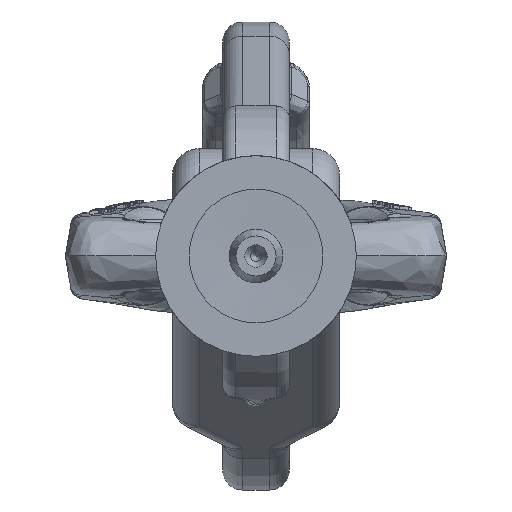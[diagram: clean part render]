
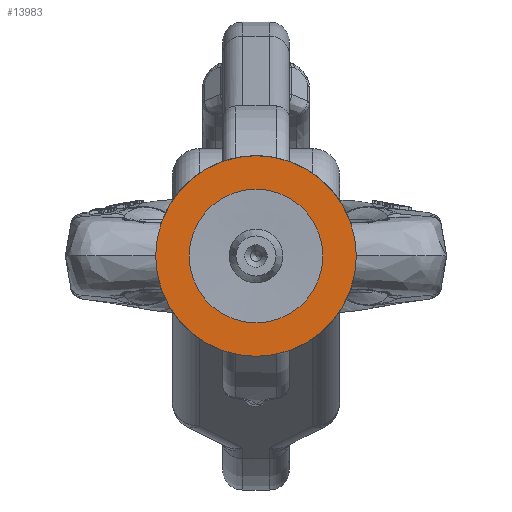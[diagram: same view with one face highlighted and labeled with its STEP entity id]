
A CAD part, front view. The second image highlights one B-rep face of the part: STEP entity #13983.
In plain terms, the highlighted planar face has unit normal (0, -1, 0) as drawn and (0, 0, -1) by its records, which use the part's own axes.
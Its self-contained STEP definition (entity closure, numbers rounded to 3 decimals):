
#343=FACE_BOUND('',#2888,.T.);
#871=CIRCLE('',#15032,15.);
#878=CIRCLE('',#15046,10.);
#1164=PLANE('',#15049);
#1970=FACE_OUTER_BOUND('',#2887,.T.);
#2887=EDGE_LOOP('',(#12453));
#2888=EDGE_LOOP('',(#12454));
#6314=VERTEX_POINT('',#48406);
#6321=VERTEX_POINT('',#48427);
#8373=EDGE_CURVE('',#6314,#6314,#871,.T.);
#8380=EDGE_CURVE('',#6321,#6321,#878,.T.);
#12453=ORIENTED_EDGE('',*,*,#8373,.T.);
#12454=ORIENTED_EDGE('',*,*,#8380,.F.);
#13983=ADVANCED_FACE('',(#1970,#343),#1164,.F.);
#15032=AXIS2_PLACEMENT_3D('',#48407,#17524,#17525);
#15046=AXIS2_PLACEMENT_3D('',#48428,#17552,#17553);
#15049=AXIS2_PLACEMENT_3D('',#48432,#17558,#17559);
#17524=DIRECTION('center_axis',(0.,0.,-1.));
#17525=DIRECTION('ref_axis',(-1.,0.,0.));
#17552=DIRECTION('center_axis',(0.,0.,-1.));
#17553=DIRECTION('ref_axis',(-1.,0.,0.));
#17558=DIRECTION('center_axis',(0.,0.,1.));
#17559=DIRECTION('ref_axis',(1.,0.,0.));
#48406=CARTESIAN_POINT('',(15.,0.,0.));
#48407=CARTESIAN_POINT('Origin',(0.,0.,0.));
#48427=CARTESIAN_POINT('',(10.,0.,0.));
#48428=CARTESIAN_POINT('Origin',(0.,0.,0.));
#48432=CARTESIAN_POINT('Origin',(0.,0.,0.));
